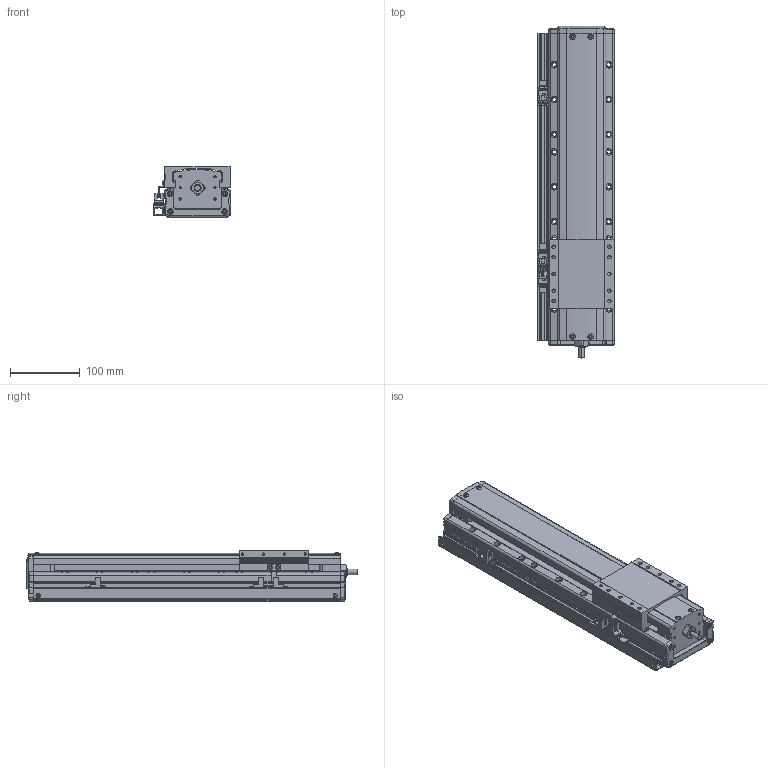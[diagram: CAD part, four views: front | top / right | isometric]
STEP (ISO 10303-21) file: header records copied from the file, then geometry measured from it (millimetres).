
FILE_DESCRIPTION(('STEP AP214'),'1');
FILE_NAME('Z:/Web/3D/PSA95/STP/PSA95-250 (3D)/PSA95ㅁㅁ-250+3SL.stp','2014-07-02T23:57:54',(' '),(' '),'Spatial InterOp 3D',' ',' ');
FILE_SCHEMA(('automotive_design'));
Length unit declared in the file: millimetre
Products named in the file (36): BASE; RRCV; 스크루 : Round - M4.0 x 10.0; 너트 : Square - M10.0 x 220.7419; RR1500; FRCV-090; 스크루 : Round - M4.0 x 6.0; SLBL-PA90; EE-SX674; SBK-SX674-352; 스크루 : Round - M3.0 x 6.0; M3.0 x 6.0; SRL-16x17-380L; SGD-PA95; 스크루 : Round - M3.0 x 8.0
Bounding box: 111 x 476 x 74 mm (x, y, z)
Volume: 2535797.4 mm3; surface area: 341402.9 mm2
Topology: 36 solids, 36 shells, 2284 faces, 6118 edges, 3938 vertices
Faces by surface type: plane 1360, cylinder 639, cone 197, sphere 50, bspline 24, torus 14
Entity records: 91957 total; most frequent: CARTESIAN_POINT 15383, DIRECTION 12082, ORIENTED_EDGE 12004, EDGE_CURVE 6002, LINE 4180, VECTOR 4180, AXIS2_PLACEMENT_3D 3951, VERTEX_POINT 3938
